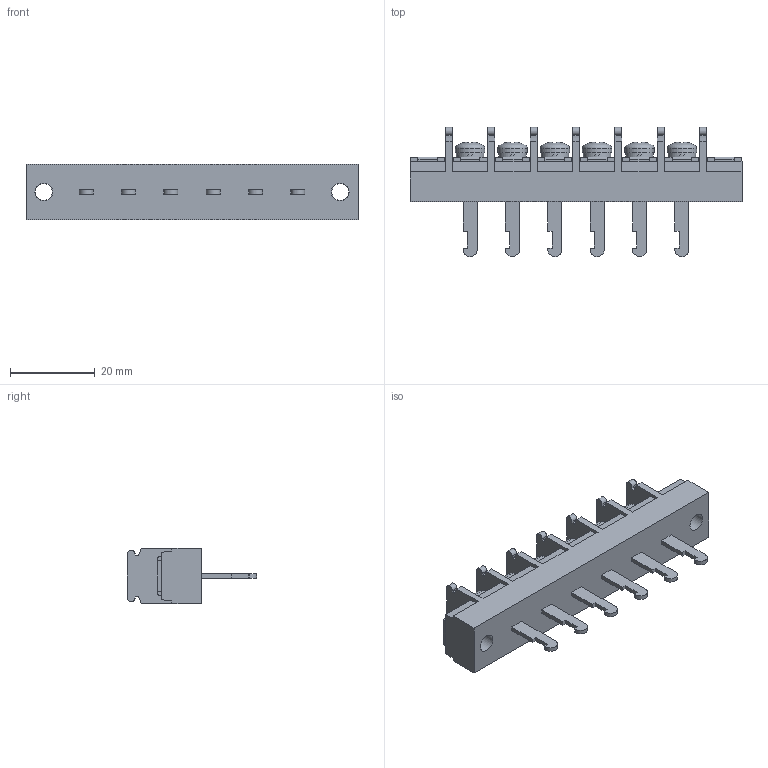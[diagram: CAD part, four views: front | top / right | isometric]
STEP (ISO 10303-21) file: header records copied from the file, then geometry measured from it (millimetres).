
FILE_DESCRIPTION(/* description */ ('Alibre Inc.'),/* implementation_level */ '2;1');
FILE_NAME(/* name */ 'export0',/* time_stamp */ '2015-10-17T19:12:40+09:00',/* author */ (''),/* organization */ (''),/* preprocessor_version */ 'ST-DEVELOPER v14',/* originating_system */ 'Alibre',/* authorisation */ '');
FILE_SCHEMA (('CONFIG_CONTROL_DESIGN'));
Length unit declared in the file: centimetre
Products named in the file (1): ID_1
Bounding box: 78.4 x 30.5 x 13 mm (x, y, z)
Volume: 11569 mm3; surface area: 7180 mm2
Topology: 1 solids, 17 shells, 842 faces, 2282 edges, 1516 vertices
Faces by surface type: plane 638, bspline 104, cylinder 58, cone 24, torus 12, sphere 6
Full cylindrical faces by diameter (mm): 4 x8, 4.2 x2, 6.5 x6, 7 x6
Entity records: 25535 total; most frequent: CARTESIAN_POINT 5681, ORIENTED_EDGE 4468, DIRECTION 3088, EDGE_CURVE 2234, VECTOR 1682, LINE 1682, VERTEX_POINT 1496, AXIS2_PLACEMENT_3D 1015
